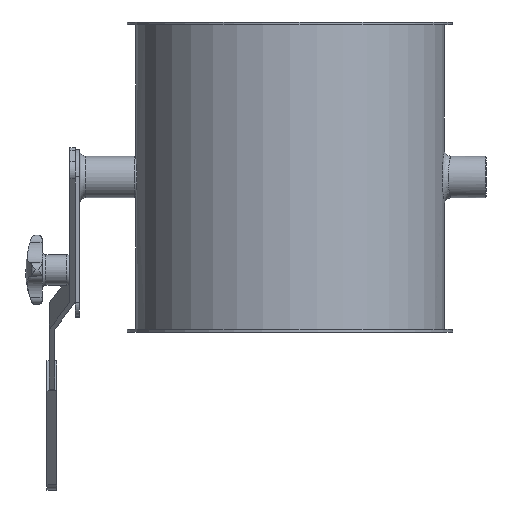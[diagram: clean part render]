
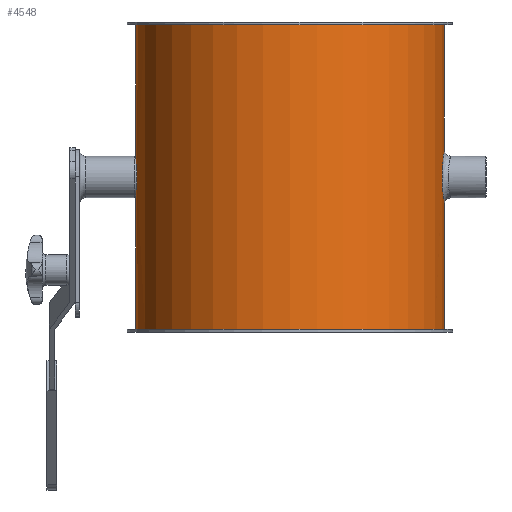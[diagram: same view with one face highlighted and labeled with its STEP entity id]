
A CAD part, front view. The second image highlights one B-rep face of the part: STEP entity #4548.
In plain terms, the highlighted cylindrical face has radius 111.5 mm (diameter 223 mm), a full revolution.
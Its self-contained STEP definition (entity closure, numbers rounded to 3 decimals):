
#4413=CARTESIAN_POINT('',(109.913,18.744,112.));
#4414=VERTEX_POINT('',#4413);
#4424=CARTESIAN_POINT('',(109.913,18.744,112.));
#4425=CARTESIAN_POINT('',(109.913,18.744,112.));
#4426=CARTESIAN_POINT('',(109.913,18.744,112.));
#4427=CARTESIAN_POINT('',(109.913,18.744,112.));
#4428=CARTESIAN_POINT('',(109.913,18.743,113.089));
#4429=CARTESIAN_POINT('',(109.944,18.567,115.279));
#4430=CARTESIAN_POINT('',(110.06,17.866,118.102));
#4431=CARTESIAN_POINT('',(110.334,16.135,122.477));
#4432=CARTESIAN_POINT('',(110.684,13.674,125.698));
#4433=CARTESIAN_POINT('',(111.14,9.205,129.208));
#4434=CARTESIAN_POINT('',(111.474,4.642,131.347));
#4435=CARTESIAN_POINT('',(111.526,-0.691,131.664));
#4436=CARTESIAN_POINT('',(111.371,-6.243,130.693));
#4437=CARTESIAN_POINT('',(110.917,-12.07,127.774));
#4438=CARTESIAN_POINT('',(110.054,-18.053,120.006));
#4439=CARTESIAN_POINT('',(109.829,-19.21,112.209));
#4440=CARTESIAN_POINT('',(109.999,-18.24,107.43));
#4441=CARTESIAN_POINT('',(110.083,-17.721,105.548));
#4442=CARTESIAN_POINT('',(110.26,-16.618,102.617));
#4443=CARTESIAN_POINT('',(110.551,-14.607,99.55));
#4444=CARTESIAN_POINT('',(110.866,-11.933,96.867));
#4445=CARTESIAN_POINT('',(111.133,-9.245,94.878));
#4446=CARTESIAN_POINT('',(111.325,-6.454,93.609));
#4447=CARTESIAN_POINT('',(111.525,-1.929,92.339));
#4448=CARTESIAN_POINT('',(111.524,2.148,92.337));
#4449=CARTESIAN_POINT('',(111.269,7.561,93.964));
#4450=CARTESIAN_POINT('',(110.848,12.528,96.815));
#4451=CARTESIAN_POINT('',(110.273,16.564,102.077));
#4452=CARTESIAN_POINT('',(109.969,18.423,107.606));
#4453=CARTESIAN_POINT('',(109.913,18.745,110.548));
#4454=CARTESIAN_POINT('',(109.913,18.744,112.));
#4455=B_SPLINE_CURVE_WITH_KNOTS('',3,(#4424,#4425,#4426,#4427,#4428,#4429,#4430,#4431,#4432,#4433,#4434,#4435,#4436,#4437,#4438,#4439,#4440,#4441,#4442,#4443,#4444,#4445,#4446,#4447,#4448,#4449,#4450,#4451,#4452,#4453,#4454),.UNSPECIFIED.,.T.,.U.,(4,3,1,1,1,1,1,1,1,1,1,1,1,1,1,1,1,1,1,1,1,1,1,1,1,1,4),(-9.052,-9.052,-8.81,-8.567,-8.406,-7.759,-7.678,-7.113,-6.628,-6.466,-5.819,-5.173,-4.311,-4.149,-4.095,-3.88,-3.448,-3.287,-3.017,-2.694,-2.586,-1.94,-1.778,-1.293,-0.647,-0.323,0.),.UNSPECIFIED.);
#4456=EDGE_CURVE('',#4414,#4414,#4455,.T.);
#4461=CARTESIAN_POINT('',(0.0,0.0,0.0));
#4462=DIRECTION('',(0.0,0.0,1.0));
#4463=DIRECTION('',(-1.0,0.0,0.0));
#4464=AXIS2_PLACEMENT_3D('',#4461,#4462,#4463);
#4465=CYLINDRICAL_SURFACE('',#4464,111.5);
#4466=CARTESIAN_POINT('',(111.5,0.,222.));
#4467=VERTEX_POINT('',#4466);
#4468=CARTESIAN_POINT('',(0.0,0.0,222.));
#4469=DIRECTION('',(0.0,0.0,-1.0));
#4470=DIRECTION('',(-1.0,0.0,0.0));
#4471=AXIS2_PLACEMENT_3D('',#4468,#4469,#4470);
#4472=CIRCLE('',#4471,111.5);
#4473=EDGE_CURVE('',#4467,#4467,#4472,.T.);
#4474=ORIENTED_EDGE('',*,*,#4473,.T.);
#4475=EDGE_LOOP('',(#4474));
#4476=FACE_OUTER_BOUND('',#4475,.T.);
#4477=CARTESIAN_POINT('',(-111.5,0.,2.0));
#4478=VERTEX_POINT('',#4477);
#4479=CARTESIAN_POINT('',(0.0,0.0,2.0));
#4480=DIRECTION('',(0.0,0.0,1.0));
#4481=DIRECTION('',(-1.0,0.0,0.0));
#4482=AXIS2_PLACEMENT_3D('',#4479,#4480,#4481);
#4483=CIRCLE('',#4482,111.5);
#4484=EDGE_CURVE('',#4478,#4478,#4483,.T.);
#4485=ORIENTED_EDGE('',*,*,#4484,.T.);
#4486=EDGE_LOOP('',(#4485));
#4487=FACE_BOUND('',#4486,.T.);
#4488=CARTESIAN_POINT('',(-110.486,15.0,112.));
#4489=VERTEX_POINT('',#4488);
#4490=CARTESIAN_POINT('',(-110.486,15.0,112.));
#4491=CARTESIAN_POINT('',(-110.486,15.0,112.943));
#4492=CARTESIAN_POINT('',(-110.499,14.91,113.918));
#4493=CARTESIAN_POINT('',(-110.549,14.529,115.856));
#4494=CARTESIAN_POINT('',(-110.588,14.24,116.82));
#4495=CARTESIAN_POINT('',(-110.732,13.091,119.591));
#4496=CARTESIAN_POINT('',(-110.867,11.937,121.276));
#4497=CARTESIAN_POINT('',(-111.122,9.276,123.937));
#4498=CARTESIAN_POINT('',(-111.257,7.591,125.091));
#4499=CARTESIAN_POINT('',(-111.4,4.82,126.24));
#4500=CARTESIAN_POINT('',(-111.438,3.856,126.529));
#4501=CARTESIAN_POINT('',(-111.488,1.918,126.91));
#4502=CARTESIAN_POINT('',(-111.5,0.943,127.0));
#4503=CARTESIAN_POINT('',(-111.5,-0.943,127.0));
#4504=CARTESIAN_POINT('',(-111.488,-1.918,126.91));
#4505=CARTESIAN_POINT('',(-111.438,-3.856,126.529));
#4506=CARTESIAN_POINT('',(-111.4,-4.82,126.24));
#4507=CARTESIAN_POINT('',(-111.257,-7.591,125.091));
#4508=CARTESIAN_POINT('',(-111.122,-9.276,123.937));
#4509=CARTESIAN_POINT('',(-110.867,-11.937,121.276));
#4510=CARTESIAN_POINT('',(-110.732,-13.091,119.591));
#4511=CARTESIAN_POINT('',(-110.588,-14.24,116.82));
#4512=CARTESIAN_POINT('',(-110.549,-14.529,115.856));
#4513=CARTESIAN_POINT('',(-110.499,-14.91,113.918));
#4514=CARTESIAN_POINT('',(-110.486,-15.0,112.943));
#4515=CARTESIAN_POINT('',(-110.486,-15.0,111.057));
#4516=CARTESIAN_POINT('',(-110.499,-14.91,110.082));
#4517=CARTESIAN_POINT('',(-110.549,-14.529,108.144));
#4518=CARTESIAN_POINT('',(-110.588,-14.24,107.18));
#4519=CARTESIAN_POINT('',(-110.732,-13.091,104.409));
#4520=CARTESIAN_POINT('',(-110.867,-11.937,102.724));
#4521=CARTESIAN_POINT('',(-111.122,-9.276,100.063));
#4522=CARTESIAN_POINT('',(-111.257,-7.591,98.909));
#4523=CARTESIAN_POINT('',(-111.4,-4.82,97.76));
#4524=CARTESIAN_POINT('',(-111.438,-3.856,97.471));
#4525=CARTESIAN_POINT('',(-111.488,-1.918,97.09));
#4526=CARTESIAN_POINT('',(-111.5,-0.943,97.));
#4527=CARTESIAN_POINT('',(-111.5,0.943,97.));
#4528=CARTESIAN_POINT('',(-111.488,1.918,97.09));
#4529=CARTESIAN_POINT('',(-111.438,3.856,97.471));
#4530=CARTESIAN_POINT('',(-111.4,4.82,97.76));
#4531=CARTESIAN_POINT('',(-111.257,7.591,98.909));
#4532=CARTESIAN_POINT('',(-111.122,9.276,100.063));
#4533=CARTESIAN_POINT('',(-110.867,11.937,102.724));
#4534=CARTESIAN_POINT('',(-110.732,13.091,104.409));
#4535=CARTESIAN_POINT('',(-110.588,14.24,107.18));
#4536=CARTESIAN_POINT('',(-110.549,14.529,108.144));
#4537=CARTESIAN_POINT('',(-110.499,14.91,110.082));
#4538=CARTESIAN_POINT('',(-110.486,15.0,111.057));
#4539=CARTESIAN_POINT('',(-110.486,15.0,112.0));
#4540=B_SPLINE_CURVE_WITH_KNOTS('',3,(#4490,#4491,#4492,#4493,#4494,#4495,#4496,#4497,#4498,#4499,#4500,#4501,#4502,#4503,#4504,#4505,#4506,#4507,#4508,#4509,#4510,#4511,#4512,#4513,#4514,#4515,#4516,#4517,#4518,#4519,#4520,#4521,#4522,#4523,#4524,#4525,#4526,#4527,#4528,#4529,#4530,#4531,#4532,#4533,#4534,#4535,#4536,#4537,#4538,#4539),.UNSPECIFIED.,.T.,.U.,(4,2,2,2,2,2,2,2,2,2,2,2,2,2,2,2,2,2,2,2,2,2,2,2,4),(0.0,0.283,0.566,1.132,1.697,1.98,2.263,2.546,2.829,3.395,3.96,4.243,4.526,4.809,5.092,5.658,6.223,6.506,6.789,7.072,7.355,7.921,8.487,8.769,9.052),.UNSPECIFIED.);
#4541=EDGE_CURVE('',#4489,#4489,#4540,.T.);
#4542=ORIENTED_EDGE('',*,*,#4541,.T.);
#4543=EDGE_LOOP('',(#4542));
#4544=FACE_BOUND('',#4543,.T.);
#4545=ORIENTED_EDGE('',*,*,#4456,.F.);
#4546=EDGE_LOOP('',(#4545));
#4547=FACE_BOUND('',#4546,.T.);
#4548=ADVANCED_FACE('',(#4476,#4487,#4544,#4547),#4465,.T.);
